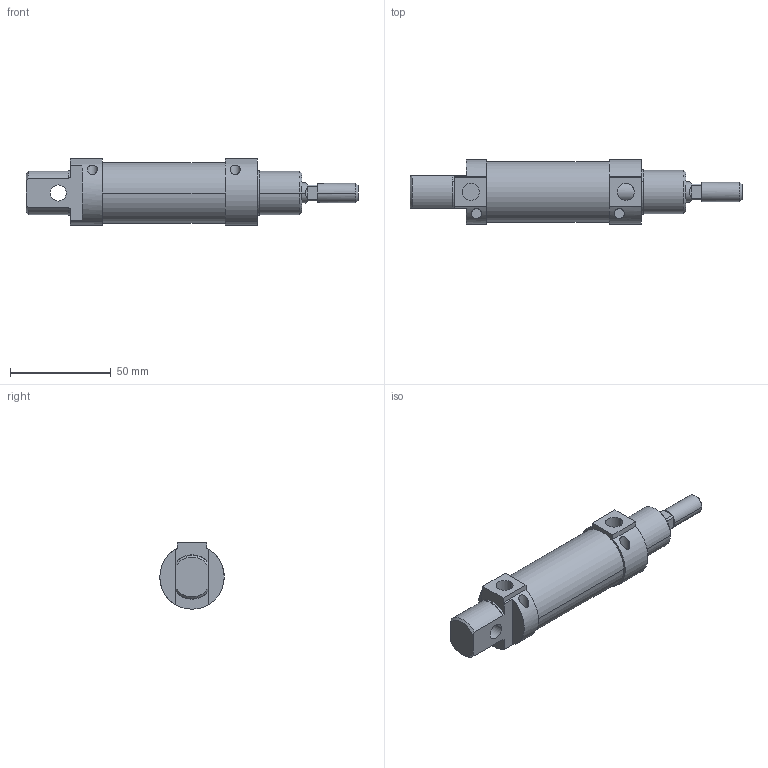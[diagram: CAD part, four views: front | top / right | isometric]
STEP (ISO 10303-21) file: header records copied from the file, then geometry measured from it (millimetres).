
FILE_DESCRIPTION(('CATIA V5 STEP Exchange'),'2;1');
FILE_NAME('D:\stp file for catalog\PSN\25\PSN-25-10-25.stp','2018-04-29T04:57:38+00:00',('none'),('none'),'CATIA Version 5-6 Release 2016','CATIA V5 STEP AP203','none');
FILE_SCHEMA(('CONFIG_CONTROL_DESIGN'));
Length unit declared in the file: millimetre
Products named in the file (1): PSN-25-10-25-00
Assembly tree (2 placements, depth 2):
  PSN-25-10-25-00
    #57
    #2060
Bounding box: 165 x 32 x 33 mm (x, y, z)
Volume: 65626.1 mm3; surface area: 29948.6 mm2
Topology: 2 solids, 2 shells, 104 faces, 246 edges, 160 vertices
Faces by surface type: plane 52, cylinder 46, cone 6
Entity records: 2883 total; most frequent: CARTESIAN_POINT 631, ORIENTED_EDGE 492, DIRECTION 342, EDGE_CURVE 246, AXIS2_PLACEMENT_3D 169, VERTEX_POINT 160, EDGE_LOOP 122, VECTOR 116
